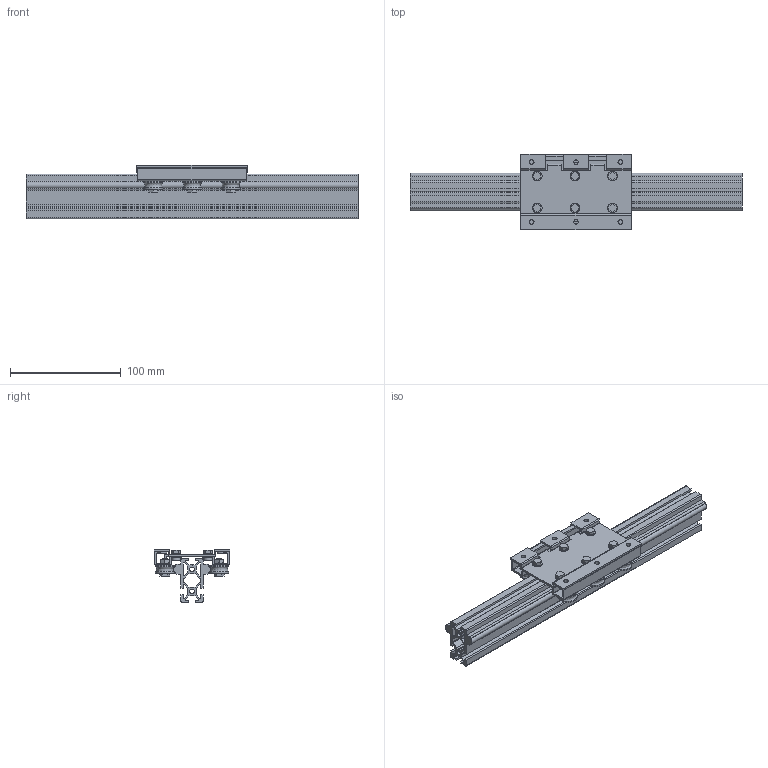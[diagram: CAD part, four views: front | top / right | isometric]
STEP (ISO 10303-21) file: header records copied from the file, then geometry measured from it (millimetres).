
FILE_DESCRIPTION((''),'2;1');
FILE_NAME('C:\Documents and Settings\土屋\My Documents\土屋移動用フォルダ\製品 (図面)\LSダウンロード用図面\新型キャリッジ\縦型LS-L\step形式\LS2040AL.stp','2017-08-02T09:34:01',('y'),(''),'Autodesk Inventor 11','Autodesk Inventor 11','');
FILE_SCHEMA(('AUTOMOTIVE_DESIGN { 1 0 10303 214 1 1 1 1 }'));
Length unit declared in the file: millimetre
Products named in the file (3): LS2040AL; LS2040ALレール; LS2040ALキャリッジ
Assembly tree (2 placements, depth 2):
  LS2040AL
    LS2040ALレール
    LS2040ALキャリッジ
Bounding box: 300 x 68 x 48 mm (x, y, z)
Volume: 172893.7 mm3; surface area: 141818.4 mm2
Topology: 8 solids, 8 shells, 635 faces, 1578 edges, 996 vertices
Faces by surface type: plane 419, cylinder 108, cone 90, bspline 18
Full cylindrical faces by diameter (mm): 4.2 x2, 5 x6, 7.9 x6, 8.5 x12, 8.7 x12, 17 x12
Entity records: 18552 total; most frequent: CARTESIAN_POINT 4040, DIRECTION 2964, ORIENTED_EDGE 2924, EDGE_CURVE 1462, AXIS2_PLACEMENT_3D 1024, VERTEX_POINT 966, VECTOR 916, LINE 916
